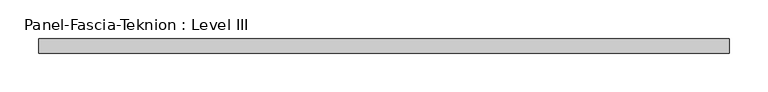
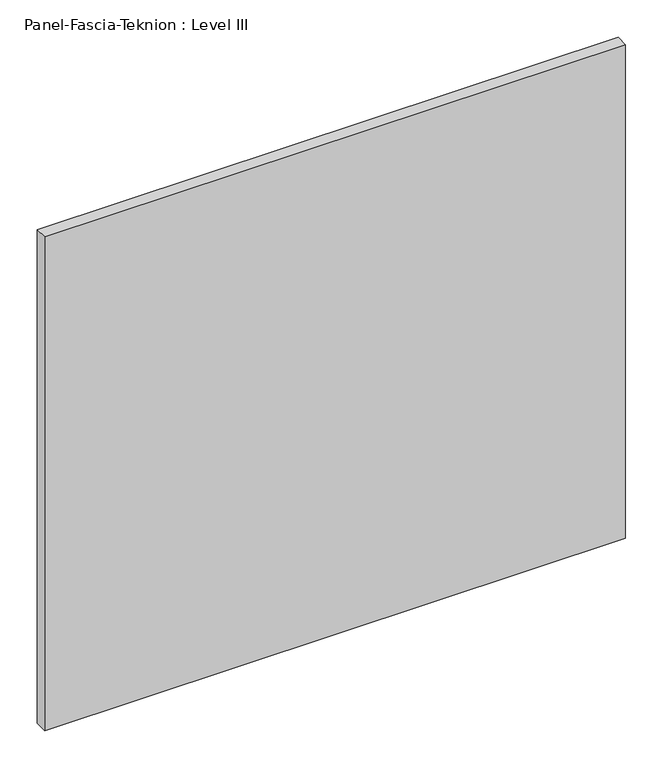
"""IFC4 building model written with IfcOpenShell, lengths in millimetres: proxy geometry, Panel-Fascia-Teknion : Level III."""

from ifc_helpers import new_model, si_unit, frame, origin, place, context, project, spatial, polyline, outline, extrude, source, transform, mapped, element, save


def panel_fascia_teknion_level_iii_b597021d(model_context):
    return source(origin(), model_context, "Body", "SweptSolid", [
        extrude(outline(polyline([(447.6253906, 9.525), (447.6253906, -9.525), (-447.6253906, -9.525), (-447.6253906, 9.525), (447.6253906, 9.525)])), frame((0.0, 0.0, 3.175), z_axis=(0.0, 0.0, 1.0), x_axis=(1.0, 0.0, 0.0)), (0.0, 0.0, 1.0), 804.418),
    ])


if __name__ == "__main__":
    model = new_model("IFC4")
    model_context = context("Model", 3, world=origin())
    ifc_project = project(units=[si_unit("LENGTHUNIT", "METRE", prefix="MILLI")], contexts=[model_context])
    site = spatial("IfcSite", under=ifc_project)
    building = spatial("IfcBuilding", under=site)
    placement = place(None, origin())
    panel_fascia_teknion_level_iii_shape = panel_fascia_teknion_level_iii_b597021d(model_context)
    element("IfcBuildingElementProxy", 1, Name="Panel-Fascia-Teknion : Level III", ObjectType="Panel-Fascia-Teknion : Level III", at=placement, inside=building, context=model_context, shape_type="MappedRepresentation", body=[
        mapped(panel_fascia_teknion_level_iii_shape, transform((0.0, 0.0, 0.0), x_axis=(1.0, 0.0, 0.0), y_axis=(0.0, 1.0, 0.0), z_axis=(0.0, 0.0, 1.0))),
    ])
    save(model, "model.ifc")
